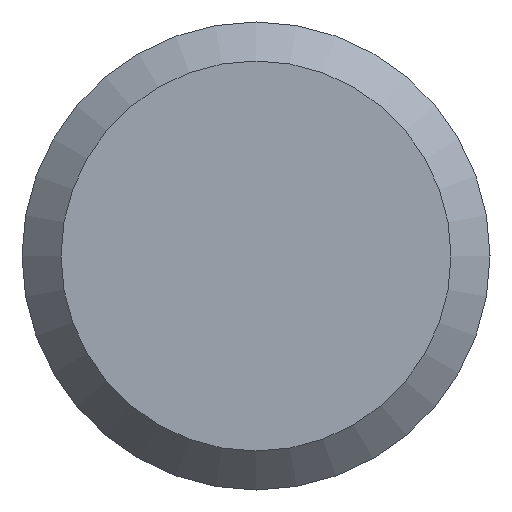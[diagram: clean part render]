
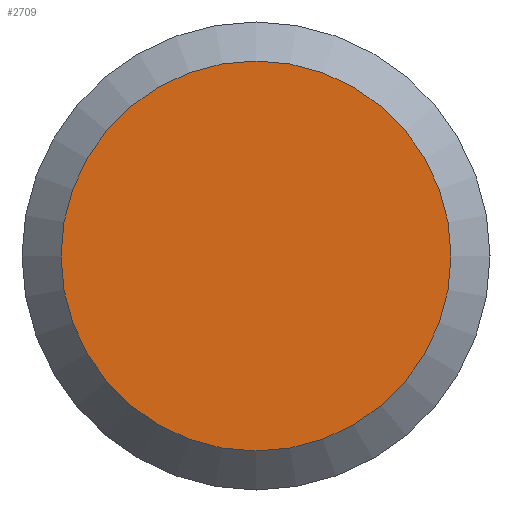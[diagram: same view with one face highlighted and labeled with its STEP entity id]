
A CAD part, left-side view. The second image highlights one B-rep face of the part: STEP entity #2709.
In plain terms, the highlighted planar face has unit normal (-1, 0, 0).
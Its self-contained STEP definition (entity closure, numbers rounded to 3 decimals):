
#979=PLANE('',#2495);
#1020=ORIENTED_EDGE('',*,*,#1380,.F.);
#1198=CIRCLE('',#2494,2.5);
#1289=VERTEX_POINT('',#2218);
#1380=EDGE_CURVE('',#1289,#1289,#1198,.T.);
#1475=EDGE_LOOP('',(#1020));
#1657=FACE_BOUND('',#1475,.T.);
#1846=DIRECTION('',(1.,0.,0.));
#1847=DIRECTION('',(0.,0.,-2.5));
#1848=DIRECTION('',(-1.,0.,0.));
#1849=DIRECTION('',(0.,1.,0.));
#2218=CARTESIAN_POINT('',(40.,2.5,0.));
#2219=CARTESIAN_POINT('',(40.,0.,0.));
#2220=CARTESIAN_POINT('',(40.,0.,0.));
#2494=AXIS2_PLACEMENT_3D('',#2219,#1846,#1847);
#2495=AXIS2_PLACEMENT_3D('',#2220,#1848,#1849);
#2709=ADVANCED_FACE('',(#1657),#979,.T.);
